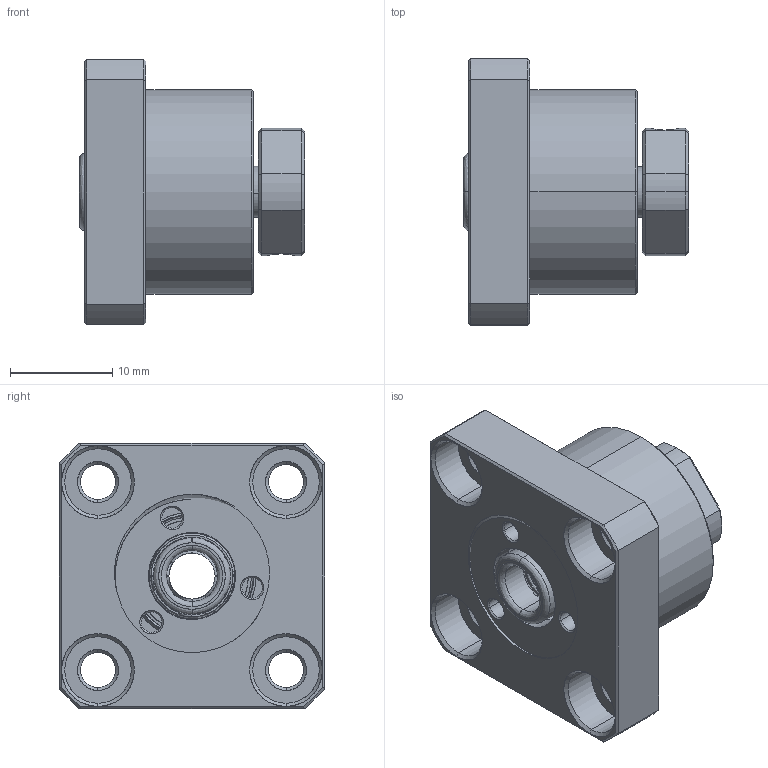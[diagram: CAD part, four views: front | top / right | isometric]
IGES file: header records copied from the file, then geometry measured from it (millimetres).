
Start section: SolidWorks IGES file using analytic representation for surfaces
Bounding box: 22 x 26 x 26 mm (x, y, z)
Surface area: 4015.9 mm2 (no closed solid volume)
Topology: 0 solids, 0 shells, 171 faces, 2156 edges, 2156 vertices
Faces by surface type: revolution 118, bspline 53
